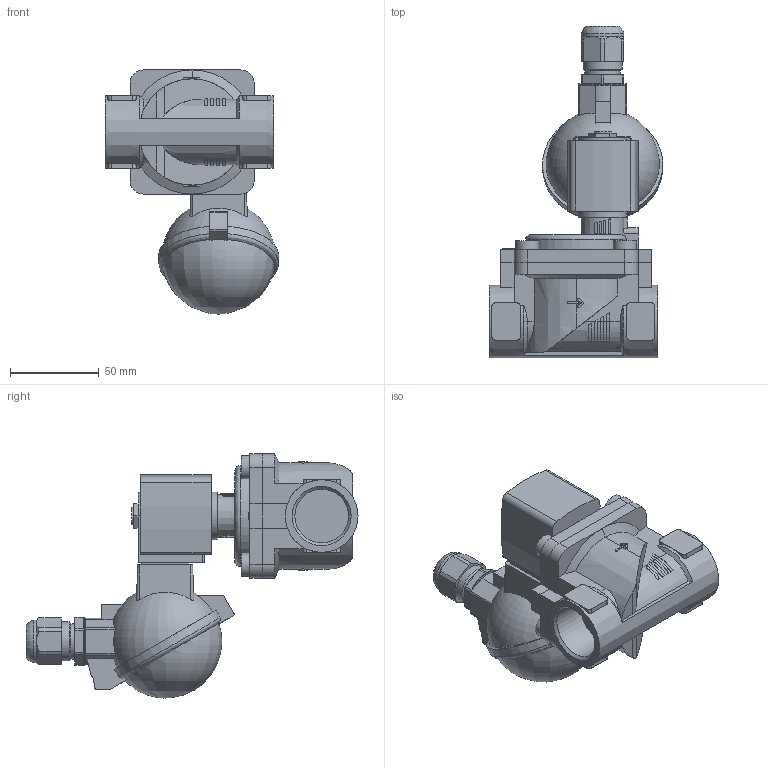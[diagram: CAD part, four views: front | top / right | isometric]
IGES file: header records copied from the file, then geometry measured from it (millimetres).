
Start section: Data from Parasolid IGES Translator 26.0.171, Copyright(c) 2006 Siemens PLM Software. All Rights Reserved.
Global section: file name: 6281-380365-2_2-Way_Solenoid_Valve__Servo-assisted__General_Purpose.igs; native system: By Siemens PLM Incorporated; preprocessor: XPlus GENERIC/IGES 26.0.171; author: Noname; organization: Noname; date: 20240828.214111; units: millimetre
Bounding box: 97.93 x 187.3 x 137.7 mm (x, y, z)
Surface area: 78343.6 mm2 (no closed solid volume)
Topology: 0 solids, 0 shells, 411 faces, 2189 edges, 2156 vertices
Faces by surface type: extrusion 245, revolution 166
